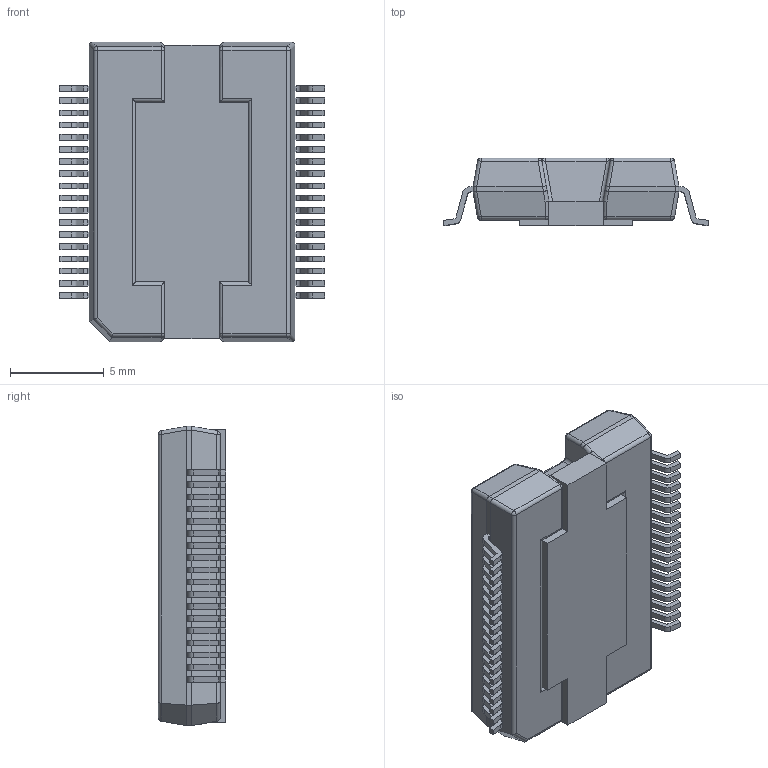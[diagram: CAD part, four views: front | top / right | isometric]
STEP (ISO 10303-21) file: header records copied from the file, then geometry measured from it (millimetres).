
FILE_DESCRIPTION (( 'STEP AP214' ), '1' );
FILE_NAME ('L6207PD013TR.STEP', '2022-11-23T15:43:10', ( '' ), ( '' ), 'SwSTEP 2.0', 'SolidWorks 2017', '' );
FILE_SCHEMA (( 'AUTOMOTIVE_DESIGN' ));
Length unit declared in the file: millimetre
Products named in the file (1): L6207PD013TR
Bounding box: 14.2 x 3.6 x 16 mm (x, y, z)
Volume: 562.8 mm3; surface area: 843.2 mm2
Topology: 38 solids, 38 shells, 646 faces, 1638 edges, 1066 vertices
Faces by surface type: plane 417, cylinder 207, sphere 14, bspline 8
Entity records: 19671 total; most frequent: CARTESIAN_POINT 3657, ORIENTED_EDGE 3268, DIRECTION 3188, EDGE_CURVE 1634, LINE 1210, VECTOR 1210, VERTEX_POINT 1066, AXIS2_PLACEMENT_3D 989
